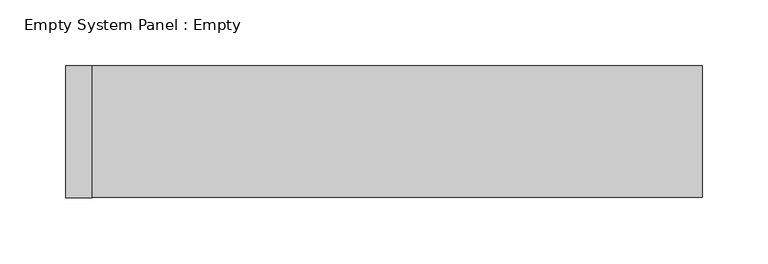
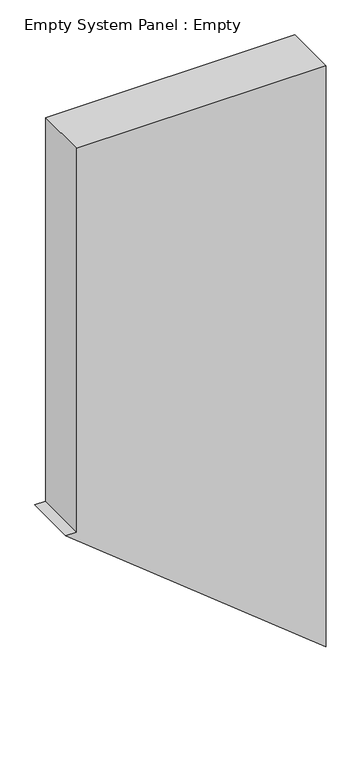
"""IFC4 building model written with IfcOpenShell, lengths in millimetres: plate geometry, Empty System Panel : Empty."""

from ifc_helpers import new_model, si_unit, frame, origin, place, context, project, spatial, polyline, outline, extrude, source, transform, mapped, element, save


def empty_system_panel_empty_3f143893(model_context):
    return source(origin(), model_context, "Body", "SweptSolid", [
        extrude(outline(polyline([(387.504061, -241.7391304), (0.0, 241.7391304), (1141.2287803, 241.7391304), (1141.2287803, -221.7391304), (387.504061, -221.7391304), (387.504061, -241.7391304)])), frame((0.0, -50.0, 0.0), z_axis=(0.0, 1.0, 0.0), x_axis=(0.0, 0.0, 1.0)), (0.0, 0.0, 1.0), 100.0),
    ])


if __name__ == "__main__":
    model = new_model("IFC4")
    model_context = context("Model", 3, world=origin())
    ifc_project = project(units=[si_unit("LENGTHUNIT", "METRE", prefix="MILLI")], contexts=[model_context])
    site = spatial("IfcSite", under=ifc_project)
    building = spatial("IfcBuilding", under=site)
    placement = place(None, origin())
    empty_system_panel_empty_shape = empty_system_panel_empty_3f143893(model_context)
    element("IfcPlate", 1, ObjectType="Empty System Panel : Empty", at=placement, inside=building, context=model_context, shape_type="MappedRepresentation", body=[
        mapped(empty_system_panel_empty_shape, transform((0.0, 0.0, 0.0), x_axis=(1.0, 0.0, 0.0), y_axis=(0.0, 1.0, 0.0), z_axis=(0.0, 0.0, 1.0))),
    ])
    save(model, "model.ifc")
